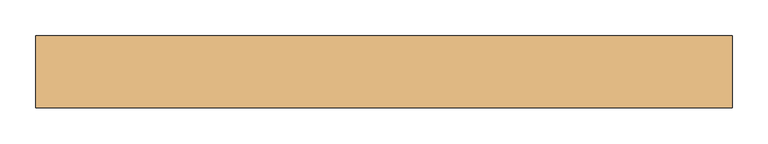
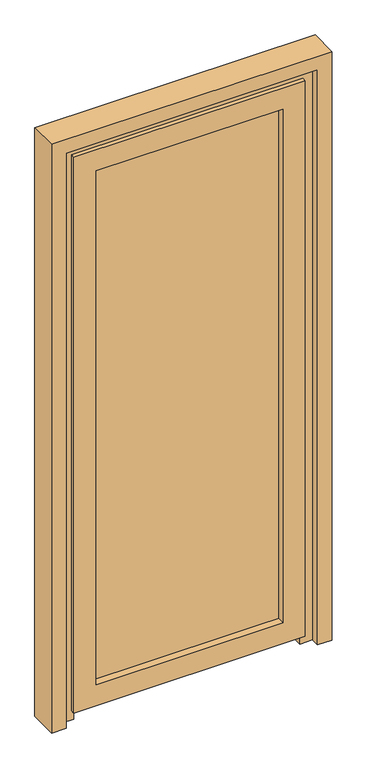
"""IFC4 building model written with IfcOpenShell, lengths in millimetres: door geometry, Внутренняя дверь 1-Навесная - 30970-2002 : ДПВ Г Б Пр 2100-870 ГОСТ 30970-2002."""

from ifc_helpers import new_model, si_unit, frame, origin, place, context, project, spatial, polyline, outline, extrude, faceted_brep, source, transform, mapped, element, save


def door_8eaac61e(model_context):
    return source(origin(), model_context, "Body", "SolidModel", [
        extrude(outline(polyline([(-338.0, 23.0), (338.0, 23.0), (338.0, -1.0), (-338.0, -1.0), (-338.0, 23.0)])), frame((0.0, 0.0, 97.0), z_axis=(0.0, 0.0, 1.0), x_axis=(1.0, 0.0, 0.0)), (0.0, 0.0, 1.0), 1906.0),
        faceted_brep([(-323.0, -1.0, 1988.0), (-323.0, -27.0, 1988.0), (-323.0, -27.0, 112.0), (-323.0, -1.0, 112.0), (-338.0, 23.0, 2003.0), (-338.0, -1.0, 2003.0), (-338.0, -1.0, 97.0), (-338.0, 23.0, 97.0), (-323.0, 43.0, 1988.0), (-323.0, 23.0, 1988.0), (-323.0, 23.0, 112.0), (-323.0, 43.0, 112.0), (-380.0, -13.0, 2045.0), (-380.0, 43.0, 2045.0), (-380.0, 43.0, 55.0), (-380.0, -13.0, 55.0), (-400.0, -27.0, 2065.0), (-400.0, -13.0, 2065.0), (-400.0, -13.0, 35.0), (-400.0, -27.0, 35.0), (323.0, -27.0, 112.0), (323.0, -1.0, 112.0), (338.0, -1.0, 97.0), (338.0, 23.0, 97.0), (323.0, 23.0, 112.0), (323.0, 43.0, 112.0), (380.0, 43.0, 55.0), (380.0, -13.0, 55.0), (400.0, -13.0, 35.0), (400.0, -27.0, 35.0), (323.0, -27.0, 1988.0), (323.0, -1.0, 1988.0), (338.0, -1.0, 2003.0), (338.0, 23.0, 2003.0), (323.0, 23.0, 1988.0), (323.0, 43.0, 1988.0), (380.0, 43.0, 2045.0), (380.0, -13.0, 2045.0), (400.0, -13.0, 2065.0), (400.0, -27.0, 2065.0)], [[[0, 1, 2, 3]], [[4, 5, 6, 7]], [[8, 9, 10, 11]], [[12, 13, 14, 15]], [[16, 17, 18, 19]], [[3, 2, 20, 21]], [[7, 6, 22, 23]], [[11, 10, 24, 25]], [[15, 14, 26, 27]], [[19, 18, 28, 29]], [[21, 20, 30, 31]], [[23, 22, 32, 33]], [[25, 24, 34, 35]], [[27, 26, 36, 37]], [[29, 28, 38, 39]], [[31, 30, 1, 0]], [[5, 32, 22, 6], [3, 21, 31, 0]], [[33, 32, 5, 4]], [[7, 23, 33, 4], [9, 34, 24, 10]], [[35, 34, 9, 8]], [[13, 36, 26, 14], [11, 25, 35, 8]], [[37, 36, 13, 12]], [[17, 38, 28, 18], [15, 27, 37, 12]], [[39, 38, 17, 16]], [[19, 29, 39, 16], [1, 30, 20, 2]]]),
        faceted_brep([(372.0, 59.0, 0.0), (435.0, 59.0, 0.0), (435.0, -11.0, 0.0), (392.0, -11.0, 0.0), (392.0, 45.0, 0.0), (372.0, 45.0, 0.0), (372.0, 59.0, 2037.0), (-372.0, 59.0, 2037.0), (-372.0, 59.0, 0.0), (-435.0, 59.0, 0.0), (-435.0, 59.0, 2100.0), (435.0, 59.0, 2100.0), (435.0, -11.0, 2100.0), (-435.0, -11.0, 2100.0), (-435.0, -11.0, 0.0), (-392.0, -11.0, 0.0), (-392.0, -11.0, 2057.0), (392.0, -11.0, 2057.0), (392.0, 45.0, 2057.0), (-392.0, 45.0, 2057.0), (-392.0, 45.0, 0.0), (-372.0, 45.0, 0.0), (-372.0, 45.0, 2037.0), (372.0, 45.0, 2037.0)], [[[0, 1, 2, 3, 4, 5]], [[1, 0, 6, 7, 8, 9, 10, 11]], [[2, 1, 11, 12]], [[3, 2, 12, 13, 14, 15, 16, 17]], [[4, 3, 17, 18]], [[5, 4, 18, 19, 20, 21, 22, 23]], [[0, 5, 23, 6]], [[7, 22, 21, 8]], [[8, 21, 20, 15, 14, 9]], [[13, 10, 9, 14]], [[19, 16, 15, 20]], [[12, 11, 10, 13]], [[18, 17, 16, 19]], [[6, 23, 22, 7]]]),
        extrude(outline(polyline([(0.0, 435.0), (0.0, 485.0), (2150.0, 485.0), (2150.0, -485.0), (0.0, -485.0), (0.0, -435.0), (2100.0, -435.0), (2100.0, 435.0), (0.0, 435.0)])), frame((0.0, -41.0, 0.0), z_axis=(0.0, 1.0, 0.0), x_axis=(0.0, 0.0, 1.0)), (0.0, 0.0, 1.0), 100.0),
    ])


if __name__ == "__main__":
    model = new_model("IFC4")
    model_context = context("Model", 3, world=origin())
    ifc_project = project(units=[si_unit("LENGTHUNIT", "METRE", prefix="MILLI")], contexts=[model_context])
    site = spatial("IfcSite", under=ifc_project)
    building = spatial("IfcBuilding", under=site)
    placement = place(None, origin())
    door_shape = door_8eaac61e(model_context)
    element("IfcDoor", 1, ObjectType="Внутренняя дверь 1-Навесная - 30970-2002 : ДПВ Г Б Пр 2100-870 ГОСТ 30970-2002", at=placement, inside=building, context=model_context, shape_type="MappedRepresentation", body=[
        mapped(door_shape, transform((0.0, 0.0, 0.0), x_axis=(1.0, 0.0, 0.0), y_axis=(0.0, 1.0, 0.0), z_axis=(0.0, 0.0, 1.0))),
    ])
    save(model, "model.ifc")
